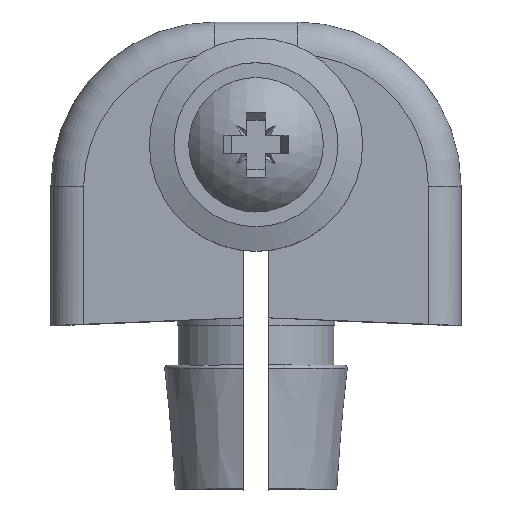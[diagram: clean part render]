
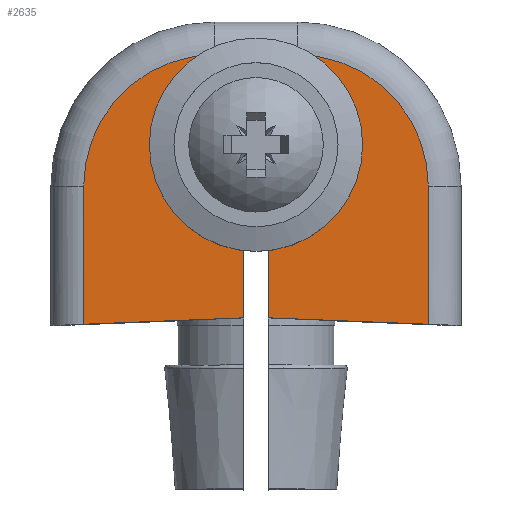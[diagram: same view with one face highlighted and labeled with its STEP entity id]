
A CAD part, top view. The second image highlights one B-rep face of the part: STEP entity #2635.
In plain terms, the highlighted planar face has unit normal (0, 0, 1).
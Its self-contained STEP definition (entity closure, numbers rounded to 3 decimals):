
#1 = ORIENTED_EDGE ( 'NONE', *, *, #2097, .F. ) ;
#8 = LINE ( 'NONE', #655, #150 ) ;
#45 = VECTOR ( 'NONE', #2552, 1000. ) ;
#115 = LINE ( 'NONE', #2442, #737 ) ;
#144 = ORIENTED_EDGE ( 'NONE', *, *, #1702, .F. ) ;
#150 = VECTOR ( 'NONE', #424, 1000. ) ;
#161 = VERTEX_POINT ( 'NONE', #1866 ) ;
#162 = CARTESIAN_POINT ( 'NONE',  ( 0., 0.5, 7.5 ) ) ;
#165 = LINE ( 'NONE', #2410, #828 ) ;
#229 = VERTEX_POINT ( 'NONE', #804 ) ;
#255 = CARTESIAN_POINT ( 'NONE',  ( 0., 0.5, 7.5 ) ) ;
#372 = EDGE_CURVE ( 'NONE', #2664, #402, #8, .T. ) ;
#374 = LINE ( 'NONE', #1223, #45 ) ;
#383 = CARTESIAN_POINT ( 'NONE',  ( 2.5, 16.5, 7.5 ) ) ;
#402 = VERTEX_POINT ( 'NONE', #1985 ) ;
#424 = DIRECTION ( 'NONE',  ( 0., -1., 0. ) ) ;
#613 = CARTESIAN_POINT ( 'NONE',  ( 10.5, 8.5, 7.5 ) ) ;
#637 = CIRCLE ( 'NONE', #1713, 5. ) ;
#655 = CARTESIAN_POINT ( 'NONE',  ( -0.75, -10., 7.5 ) ) ;
#737 = VECTOR ( 'NONE', #1807, 1000. ) ;
#791 = DIRECTION ( 'NONE',  ( -1., 0., 0. ) ) ;
#804 = CARTESIAN_POINT ( 'NONE',  ( -2.5, 16.5, 7.5 ) ) ;
#820 = EDGE_CURVE ( 'NONE', #229, #1262, #1215, .T. ) ;
#825 = DIRECTION ( 'NONE',  ( 1., 0., 0. ) ) ;
#828 = VECTOR ( 'NONE', #2438, 1000. ) ;
#891 = FACE_OUTER_BOUND ( 'NONE', #1368, .T. ) ;
#1033 = DIRECTION ( 'NONE',  ( -1., 0., 0. ) ) ;
#1038 = EDGE_CURVE ( 'NONE', #1539, #229, #1178, .T. ) ;
#1061 = AXIS2_PLACEMENT_3D ( 'NONE', #2322, #1225, #791 ) ;
#1079 = EDGE_CURVE ( 'NONE', #1587, #161, #2023, .T. ) ;
#1144 = DIRECTION ( 'NONE',  ( 0.999, -0.04, 0. ) ) ;
#1178 = LINE ( 'NONE', #2272, #2632 ) ;
#1215 = CIRCLE ( 'NONE', #1061, 8. ) ;
#1223 = CARTESIAN_POINT ( 'NONE',  ( -10.5, 8.5, 7.5 ) ) ;
#1225 = DIRECTION ( 'NONE',  ( 0., 0., 1. ) ) ;
#1238 = ORIENTED_EDGE ( 'NONE', *, *, #2577, .T. ) ;
#1262 = VERTEX_POINT ( 'NONE', #1465 ) ;
#1294 = VECTOR ( 'NONE', #1925, 1000. ) ;
#1333 = ORIENTED_EDGE ( 'NONE', *, *, #1079, .T. ) ;
#1348 = AXIS2_PLACEMENT_3D ( 'NONE', #2363, #2785, #1033 ) ;
#1355 = PLANE ( 'NONE',  #1715 ) ;
#1368 = EDGE_LOOP ( 'NONE', ( #1888, #1, #144, #1333, #2542, #2207, #2613, #2315, #2754, #1238 ) ) ;
#1465 = CARTESIAN_POINT ( 'NONE',  ( -10.5, 8.5, 7.5 ) ) ;
#1503 = CARTESIAN_POINT ( 'NONE',  ( 0.75, 6.057, 7.5 ) ) ;
#1509 = EDGE_CURVE ( 'NONE', #2566, #1539, #2405, .T. ) ;
#1539 = VERTEX_POINT ( 'NONE', #383 ) ;
#1587 = VERTEX_POINT ( 'NONE', #2124 ) ;
#1693 = LINE ( 'NONE', #162, #1294 ) ;
#1702 = EDGE_CURVE ( 'NONE', #1587, #2517, #165, .T. ) ;
#1713 = AXIS2_PLACEMENT_3D ( 'NONE', #2524, #2748, #825 ) ;
#1715 = AXIS2_PLACEMENT_3D ( 'NONE', #2419, #2637, #2235 ) ;
#1807 = DIRECTION ( 'NONE',  ( 0., 1., 0. ) ) ;
#1866 = CARTESIAN_POINT ( 'NONE',  ( 10.5, 0.08, 7.5 ) ) ;
#1888 = ORIENTED_EDGE ( 'NONE', *, *, #372, .F. ) ;
#1925 = DIRECTION ( 'NONE',  ( 0.999, 0.04, 0. ) ) ;
#1985 = CARTESIAN_POINT ( 'NONE',  ( -0.75, 0.47, 7.5 ) ) ;
#2015 = CARTESIAN_POINT ( 'NONE',  ( -0.75, 6.057, 7.5 ) ) ;
#2023 = LINE ( 'NONE', #255, #2084 ) ;
#2084 = VECTOR ( 'NONE', #1144, 1000. ) ;
#2097 = EDGE_CURVE ( 'NONE', #2517, #2664, #637, .T. ) ;
#2109 = EDGE_CURVE ( 'NONE', #1262, #2360, #374, .T. ) ;
#2124 = CARTESIAN_POINT ( 'NONE',  ( 0.75, 0.47, 7.5 ) ) ;
#2207 = ORIENTED_EDGE ( 'NONE', *, *, #1509, .T. ) ;
#2235 = DIRECTION ( 'NONE',  ( -1., 0., 0. ) ) ;
#2257 = DIRECTION ( 'NONE',  ( -1., 0., 0. ) ) ;
#2272 = CARTESIAN_POINT ( 'NONE',  ( -2.5, 16.5, 7.5 ) ) ;
#2315 = ORIENTED_EDGE ( 'NONE', *, *, #820, .T. ) ;
#2322 = CARTESIAN_POINT ( 'NONE',  ( -2.5, 8.5, 7.5 ) ) ;
#2360 = VERTEX_POINT ( 'NONE', #2653 ) ;
#2363 = CARTESIAN_POINT ( 'NONE',  ( 2.5, 8.5, 7.5 ) ) ;
#2405 = CIRCLE ( 'NONE', #1348, 8. ) ;
#2410 = CARTESIAN_POINT ( 'NONE',  ( 0.75, -10., 7.5 ) ) ;
#2411 = EDGE_CURVE ( 'NONE', #161, #2566, #115, .T. ) ;
#2419 = CARTESIAN_POINT ( 'NONE',  ( -2.5, 8.5, 7.5 ) ) ;
#2438 = DIRECTION ( 'NONE',  ( 0., 1., 0. ) ) ;
#2442 = CARTESIAN_POINT ( 'NONE',  ( 10.5, 8.5, 7.5 ) ) ;
#2517 = VERTEX_POINT ( 'NONE', #1503 ) ;
#2524 = CARTESIAN_POINT ( 'NONE',  ( 0., 11., 7.5 ) ) ;
#2542 = ORIENTED_EDGE ( 'NONE', *, *, #2411, .T. ) ;
#2552 = DIRECTION ( 'NONE',  ( 0., -1., 0. ) ) ;
#2566 = VERTEX_POINT ( 'NONE', #613 ) ;
#2577 = EDGE_CURVE ( 'NONE', #2360, #402, #1693, .T. ) ;
#2613 = ORIENTED_EDGE ( 'NONE', *, *, #1038, .T. ) ;
#2632 = VECTOR ( 'NONE', #2257, 1000. ) ;
#2635 = ADVANCED_FACE ( 'NONE', ( #891 ), #1355, .F. ) ;
#2637 = DIRECTION ( 'NONE',  ( 0., 0., -1. ) ) ;
#2653 = CARTESIAN_POINT ( 'NONE',  ( -10.5, 0.08, 7.5 ) ) ;
#2664 = VERTEX_POINT ( 'NONE', #2015 ) ;
#2748 = DIRECTION ( 'NONE',  ( 0., 0., 1. ) ) ;
#2754 = ORIENTED_EDGE ( 'NONE', *, *, #2109, .T. ) ;
#2785 = DIRECTION ( 'NONE',  ( 0., 0., 1. ) ) ;
